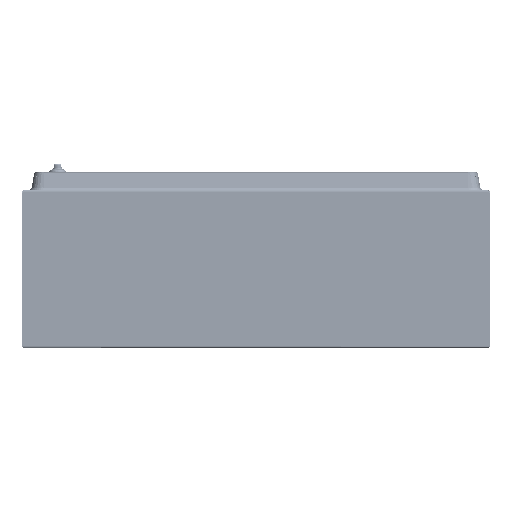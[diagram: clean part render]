
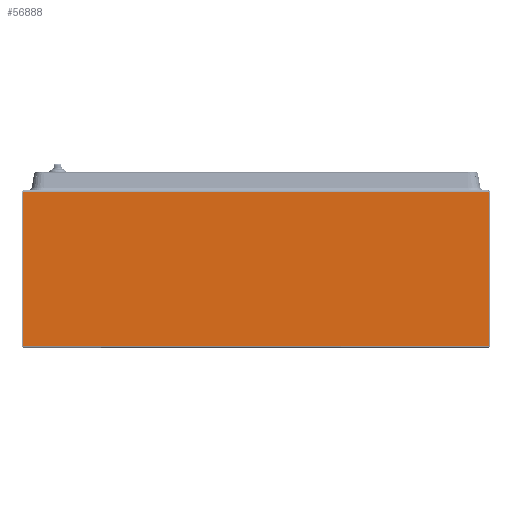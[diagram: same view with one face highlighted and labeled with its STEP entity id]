
A CAD part, front view. The second image highlights one B-rep face of the part: STEP entity #56888.
In plain terms, the highlighted planar face has unit normal (0, -1, 0).
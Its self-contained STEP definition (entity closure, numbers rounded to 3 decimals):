
#9734 = CARTESIAN_POINT ( 'NONE',  ( -398.429, -600., 264.926 ) ) ;
#17336 = EDGE_CURVE ( 'NONE', #235741, #104827, #46475, .T. ) ;
#18445 = CARTESIAN_POINT ( 'NONE',  ( -398.429, -600., 267. ) ) ;
#21731 = AXIS2_PLACEMENT_3D ( 'NONE', #262675, #129588, #21888 ) ;
#21888 = DIRECTION ( 'NONE',  ( 0., 0., 1. ) ) ;
#27254 = DIRECTION ( 'NONE',  ( 0., 0., -1. ) ) ;
#38021 = CARTESIAN_POINT ( 'NONE',  ( -397.791, -600., 266.942 ) ) ;
#39761 = LINE ( 'NONE', #18445, #252215 ) ;
#41142 = DIRECTION ( 'NONE',  ( 0., 0., 1. ) ) ;
#42344 = CARTESIAN_POINT ( 'NONE',  ( -398.429, -600., 3. ) ) ;
#43005 = CARTESIAN_POINT ( 'NONE',  ( 397.791, -600., 266.942 ) ) ;
#45076 = CARTESIAN_POINT ( 'NONE',  ( 0., -600., 267. ) ) ;
#46475 = LINE ( 'NONE', #45076, #92095 ) ;
#47387 = FACE_OUTER_BOUND ( 'NONE', #131737, .T. ) ;
#48112 = CIRCLE ( 'NONE', #278797, 3.5 ) ;
#52153 = ORIENTED_EDGE ( 'NONE', *, *, #112242, .T. ) ;
#54665 = ORIENTED_EDGE ( 'NONE', *, *, #180628, .T. ) ;
#56888 = ADVANCED_FACE ( 'NONE', ( #47387 ), #111147, .F. ) ;
#60671 = ORIENTED_EDGE ( 'NONE', *, *, #17336, .T. ) ;
#62369 = DIRECTION ( 'NONE',  ( 0., 0., -1. ) ) ;
#63431 = EDGE_CURVE ( 'NONE', #92879, #262792, #39761, .T. ) ;
#63769 = DIRECTION ( 'NONE',  ( 0., -1., 0. ) ) ;
#65796 = CARTESIAN_POINT ( 'NONE',  ( 371.629, -600., 248.514 ) ) ;
#66574 = CARTESIAN_POINT ( 'NONE',  ( -394.929, -600., 264.926 ) ) ;
#71492 = DIRECTION ( 'NONE',  ( 0., 0., -1. ) ) ;
#73579 = CIRCLE ( 'NONE', #155088, 32. ) ;
#78788 = CIRCLE ( 'NONE', #105931, 32. ) ;
#83161 = DIRECTION ( 'NONE',  ( 0., 0., 1. ) ) ;
#92095 = VECTOR ( 'NONE', #179508, 1000. ) ;
#92879 = VERTEX_POINT ( 'NONE', #42344 ) ;
#92952 = VERTEX_POINT ( 'NONE', #217895 ) ;
#94153 = VECTOR ( 'NONE', #83161, 1000. ) ;
#96900 = VERTEX_POINT ( 'NONE', #38021 ) ;
#104827 = VERTEX_POINT ( 'NONE', #272690 ) ;
#105931 = AXIS2_PLACEMENT_3D ( 'NONE', #65796, #152182, #221499 ) ;
#111147 = PLANE ( 'NONE',  #21731 ) ;
#112242 = EDGE_CURVE ( 'NONE', #92952, #166445, #237433, .T. ) ;
#129588 = DIRECTION ( 'NONE',  ( 0., 1., 0. ) ) ;
#131058 = EDGE_CURVE ( 'NONE', #104827, #96900, #73579, .T. ) ;
#131737 = EDGE_LOOP ( 'NONE', ( #259129, #52153, #229807, #60671, #254400, #54665, #218284, #264324 ) ) ;
#140808 = CARTESIAN_POINT ( 'NONE',  ( 394.929, -600., 264.926 ) ) ;
#148285 = CARTESIAN_POINT ( 'NONE',  ( 398.429, -600., 267. ) ) ;
#151306 = DIRECTION ( 'NONE',  ( -1., 0., 0. ) ) ;
#152182 = DIRECTION ( 'NONE',  ( 0., -1., 0. ) ) ;
#155088 = AXIS2_PLACEMENT_3D ( 'NONE', #221287, #202775, #27254 ) ;
#166445 = VERTEX_POINT ( 'NONE', #43005 ) ;
#170112 = CARTESIAN_POINT ( 'NONE',  ( 397.75, -600., 267. ) ) ;
#177819 = EDGE_CURVE ( 'NONE', #249159, #92879, #274634, .T. ) ;
#179508 = DIRECTION ( 'NONE',  ( -1., 0., 0. ) ) ;
#180628 = EDGE_CURVE ( 'NONE', #96900, #262792, #48112, .T. ) ;
#183709 = VECTOR ( 'NONE', #151306, 1000. ) ;
#202775 = DIRECTION ( 'NONE',  ( 0., -1., 0. ) ) ;
#217895 = CARTESIAN_POINT ( 'NONE',  ( 398.429, -600., 264.926 ) ) ;
#218284 = ORIENTED_EDGE ( 'NONE', *, *, #63431, .F. ) ;
#221287 = CARTESIAN_POINT ( 'NONE',  ( -371.629, -600., 248.514 ) ) ;
#221499 = DIRECTION ( 'NONE',  ( 0., 0., 1. ) ) ;
#224411 = DIRECTION ( 'NONE',  ( 0., -1., 0. ) ) ;
#227213 = CARTESIAN_POINT ( 'NONE',  ( 398.429, -600., 3. ) ) ;
#229807 = ORIENTED_EDGE ( 'NONE', *, *, #230564, .T. ) ;
#230564 = EDGE_CURVE ( 'NONE', #166445, #235741, #78788, .T. ) ;
#232985 = AXIS2_PLACEMENT_3D ( 'NONE', #140808, #224411, #71492 ) ;
#233523 = CARTESIAN_POINT ( 'NONE',  ( 0., -600., 3. ) ) ;
#235741 = VERTEX_POINT ( 'NONE', #170112 ) ;
#237433 = CIRCLE ( 'NONE', #232985, 3.5 ) ;
#246032 = EDGE_CURVE ( 'NONE', #249159, #92952, #277187, .T. ) ;
#249159 = VERTEX_POINT ( 'NONE', #227213 ) ;
#252215 = VECTOR ( 'NONE', #41142, 1000. ) ;
#254400 = ORIENTED_EDGE ( 'NONE', *, *, #131058, .T. ) ;
#259129 = ORIENTED_EDGE ( 'NONE', *, *, #246032, .T. ) ;
#262675 = CARTESIAN_POINT ( 'NONE',  ( 0., -600., 267. ) ) ;
#262792 = VERTEX_POINT ( 'NONE', #9734 ) ;
#264324 = ORIENTED_EDGE ( 'NONE', *, *, #177819, .F. ) ;
#272690 = CARTESIAN_POINT ( 'NONE',  ( -397.75, -600., 267. ) ) ;
#274634 = LINE ( 'NONE', #233523, #183709 ) ;
#277187 = LINE ( 'NONE', #148285, #94153 ) ;
#278797 = AXIS2_PLACEMENT_3D ( 'NONE', #66574, #63769, #62369 ) ;
